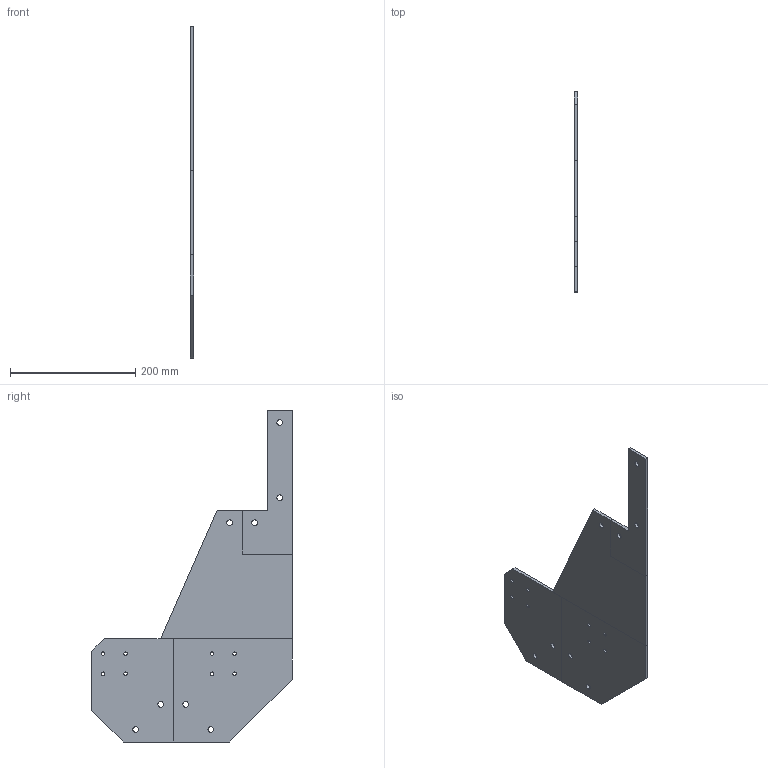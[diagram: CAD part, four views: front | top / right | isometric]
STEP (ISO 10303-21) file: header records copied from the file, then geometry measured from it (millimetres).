
FILE_DESCRIPTION(/* description */ ('','CAx-IF Rec.Pracs.---Representation and Presentation of Product Manufacturing Information (PMI)---4.0---2014-10-13'),/* implementation_level */ '2;1');
FILE_NAME(/* name */ 'Portalwange Schablone v5.step',/* time_stamp */ '2025-01-19T16:08:40+01:00',/* author */ (''),/* organization */ (''),/* preprocessor_version */ 'ST-DEVELOPER v20',/* originating_system */ 'Autodesk Translation Framework v13.20.0.188',/* authorisation */ '');
FILE_SCHEMA (('AP242_MANAGED_MODEL_BASED_3D_ENGINEERING_MIM_LF { 1 0 10303 442 1 1 4 }'));
Length unit declared in the file: millimetre
Products named in the file (5): Portalwange Schablone; Oben; Unten 1; Mitte; Unten 2
Assembly tree (4 placements, depth 2):
  Portalwange Schablone
    Oben
    Unten 1
    Mitte
    Unten 2
Bounding box: 5 x 320 x 530 mm (x, y, z)
Volume: 429380 mm3; surface area: 186470.6 mm2
Topology: 4 solids, 4 shells, 47 faces, 117 edges, 78 vertices
Faces by surface type: plane 31, cylinder 16
Full cylindrical faces by diameter (mm): 5.5 x8, 9 x8
Entity records: 1616 total; most frequent: DIRECTION 261, CARTESIAN_POINT 251, ORIENTED_EDGE 234, EDGE_CURVE 117, AXIS2_PLACEMENT_3D 88, LINE 85, VECTOR 85, EDGE_LOOP 79
